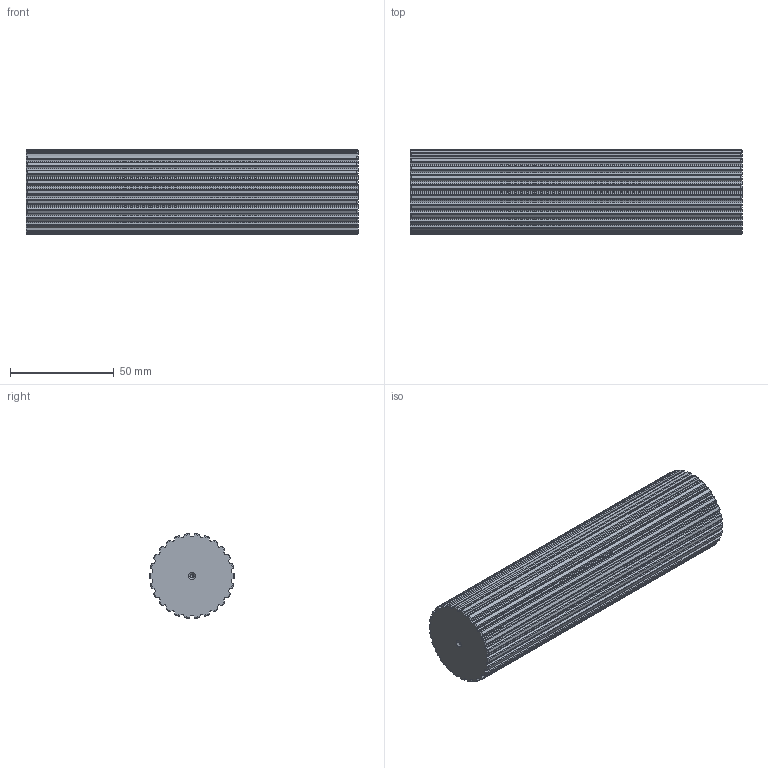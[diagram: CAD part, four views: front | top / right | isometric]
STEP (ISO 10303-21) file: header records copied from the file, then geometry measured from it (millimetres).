
FILE_DESCRIPTION(('STEP AP203'),'1');
FILE_NAME('bart_26.stp','2022-04-12T14:02:00',('TraceParts'),('TraceParts S.A.'),'Spatial InterOp 3D',' ',' ');
FILE_SCHEMA(('CONFIG_CONTROL_DESIGN'));
Length unit declared in the file: millimetre
Products named in the file (1): 1
Bounding box: 160 x 40.88 x 40.74 mm (x, y, z)
Volume: 198455.9 mm3; surface area: 28361.3 mm2
Topology: 1 solids, 1 shells, 280 faces, 826 edges, 546 vertices
Faces by surface type: cylinder 162, cone 64, plane 54
Entity records: 10050 total; most frequent: CARTESIAN_POINT 2793, ORIENTED_EDGE 1644, DIRECTION 1460, EDGE_CURVE 822, AXIS2_PLACEMENT_3D 565, VERTEX_POINT 546, LINE 330, VECTOR 330
